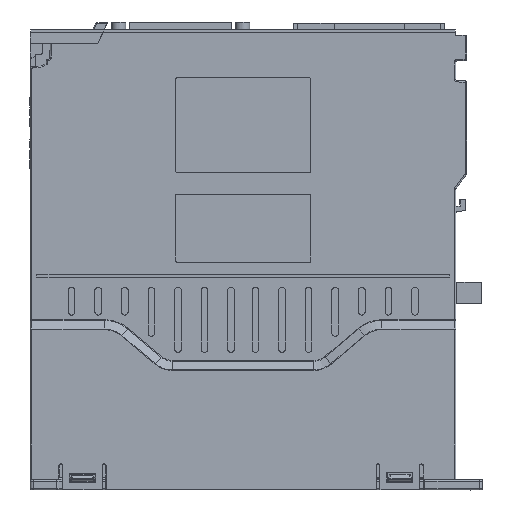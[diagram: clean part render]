
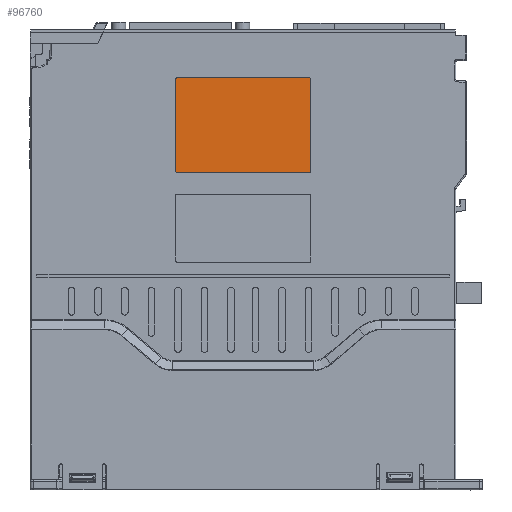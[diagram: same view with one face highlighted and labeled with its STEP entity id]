
A CAD part, front view. The second image highlights one B-rep face of the part: STEP entity #96760.
In plain terms, the highlighted planar face has unit normal (0, -1, 0).
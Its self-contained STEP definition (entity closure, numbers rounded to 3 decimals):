
#59049=CARTESIAN_POINT('',(-24.85,-23.714,154.856));
#59050=DIRECTION('',(0.,1.,0.));
#59051=DIRECTION('',(-1.,0.,0.));
#59052=AXIS2_PLACEMENT_3D('',#59049,#59050,#59051);
#59057=DIRECTION('',(1.,0.,0.));
#59058=VECTOR('',#59057,49.7);
#59059=CARTESIAN_POINT('',(-24.85,-23.714,155.356));
#59060=LINE('',#59059,#59058);
#59064=CARTESIAN_POINT('',(24.85,-23.714,154.856));
#59065=DIRECTION('',(0.,1.,0.));
#59066=DIRECTION('',(0.,0.,1.));
#59067=AXIS2_PLACEMENT_3D('',#59064,#59065,#59066);
#59072=DIRECTION('',(0.,0.,-1.));
#59073=VECTOR('',#59072,34.7);
#59074=CARTESIAN_POINT('',(25.35,-23.714,154.856));
#59075=LINE('',#59074,#59073);
#59079=CARTESIAN_POINT('',(24.85,-23.714,120.156));
#59080=DIRECTION('',(0.,1.,0.));
#59081=DIRECTION('',(1.,0.,0.));
#59082=AXIS2_PLACEMENT_3D('',#59079,#59080,#59081);
#59087=DIRECTION('',(-1.,0.,0.));
#59088=VECTOR('',#59087,49.7);
#59089=CARTESIAN_POINT('',(24.85,-23.714,119.656));
#59090=LINE('',#59089,#59088);
#59094=CARTESIAN_POINT('',(-24.85,-23.714,120.156));
#59095=DIRECTION('',(0.,1.,0.));
#59096=DIRECTION('',(0.,0.,-1.));
#59097=AXIS2_PLACEMENT_3D('',#59094,#59095,#59096);
#59102=DIRECTION('',(0.,0.,1.));
#59103=VECTOR('',#59102,34.7);
#59104=CARTESIAN_POINT('',(-25.35,-23.714,120.156));
#59105=LINE('',#59104,#59103);
#69375=CARTESIAN_POINT('',(25.35,-23.714,154.856));
#69376=VERTEX_POINT('',#69375);
#69377=CARTESIAN_POINT('',(25.35,-23.714,120.156));
#69378=VERTEX_POINT('',#69377);
#69379=CARTESIAN_POINT('',(24.85,-23.714,155.356));
#69380=VERTEX_POINT('',#69379);
#69381=CARTESIAN_POINT('',(-25.35,-23.714,154.856));
#69382=CARTESIAN_POINT('',(-24.85,-23.714,155.356));
#69383=VERTEX_POINT('',#69381);
#69384=VERTEX_POINT('',#69382);
#69385=CARTESIAN_POINT('',(24.85,-23.714,119.656));
#69386=VERTEX_POINT('',#69385);
#69387=CARTESIAN_POINT('',(-24.85,-23.714,119.656));
#69388=VERTEX_POINT('',#69387);
#69389=CARTESIAN_POINT('',(-25.35,-23.714,120.156));
#69390=VERTEX_POINT('',#69389);
#96739=CARTESIAN_POINT('',(0.,-23.714,0.));
#96740=DIRECTION('',(0.,-1.,0.));
#96741=DIRECTION('',(1.,0.,0.));
#96742=AXIS2_PLACEMENT_3D('',#96739,#96740,#96741);
#96743=PLANE('',#96742);
#96745=ORIENTED_EDGE('',*,*,#96744,.T.);
#96747=ORIENTED_EDGE('',*,*,#96746,.T.);
#96748=ORIENTED_EDGE('',*,*,#96730,.T.);
#96749=ORIENTED_EDGE('',*,*,#96720,.T.);
#96751=ORIENTED_EDGE('',*,*,#96750,.T.);
#96753=ORIENTED_EDGE('',*,*,#96752,.T.);
#96755=ORIENTED_EDGE('',*,*,#96754,.T.);
#96757=ORIENTED_EDGE('',*,*,#96756,.T.);
#96758=EDGE_LOOP('',(#96745,#96747,#96748,#96749,#96751,#96753,#96755,#96757));
#96759=FACE_OUTER_BOUND('',#96758,.F.);
#59053=CIRCLE('',#59052,0.5);
#59068=CIRCLE('',#59067,0.5);
#59083=CIRCLE('',#59082,0.5);
#59098=CIRCLE('',#59097,0.5);
#96720=EDGE_CURVE('',#69376,#69378,#59075,.T.);
#96730=EDGE_CURVE('',#69380,#69376,#59068,.T.);
#96744=EDGE_CURVE('',#69383,#69384,#59053,.T.);
#96746=EDGE_CURVE('',#69384,#69380,#59060,.T.);
#96750=EDGE_CURVE('',#69378,#69386,#59083,.T.);
#96752=EDGE_CURVE('',#69386,#69388,#59090,.T.);
#96754=EDGE_CURVE('',#69388,#69390,#59098,.T.);
#96756=EDGE_CURVE('',#69390,#69383,#59105,.T.);
#96760=ADVANCED_FACE('',(#96759),#96743,.T.);
